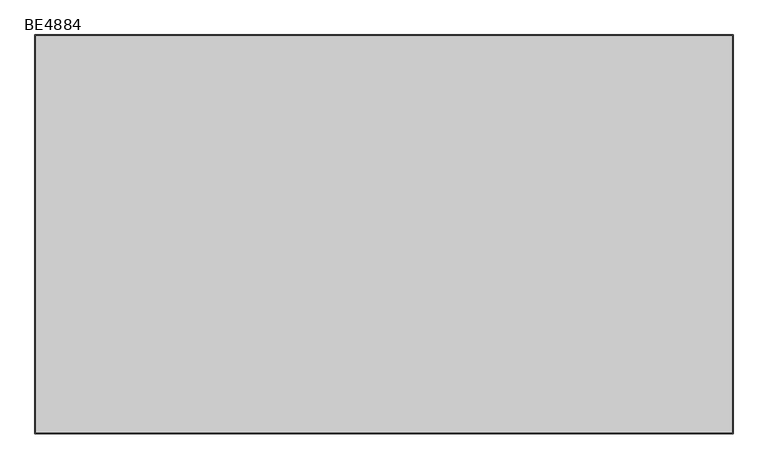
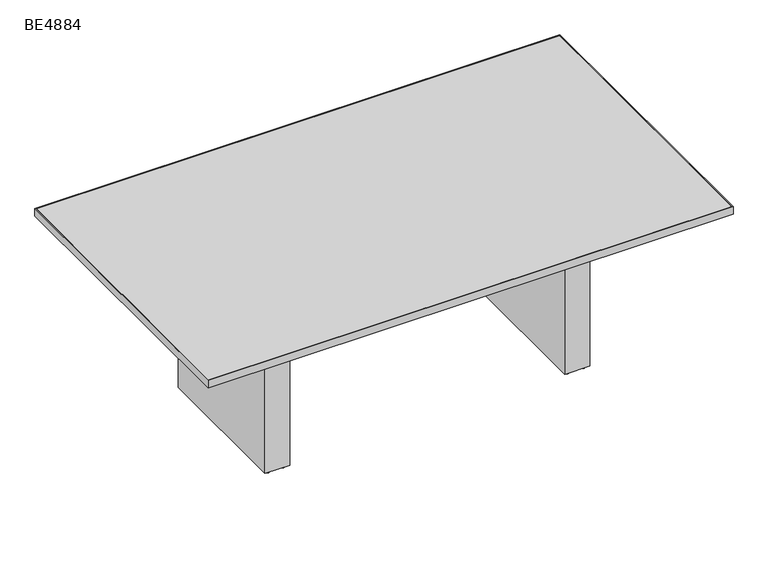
"""IFC4 building model written with IfcOpenShell, lengths in millimetres: furniture geometry, ERG-Beta-Conference_Table-Rectangle : BE4884."""

from ifc_helpers import new_model, si_unit, point, frame, frame_2d, origin, origin_with_axes, place, context, project, spatial, polyline, circle_curve, trimmed, segment, composite_curve, outline, extrude, source, transform, mapped, element, save


def be4884_85807473(model_context):
    return source(origin(), model_context, "Body", "SweptSolid", [
        extrude(outline(composite_curve([segment(trimmed(circle_curve(frame_2d((1120.775, 339.476527)), 9.525), [point((1111.25, 339.476527))], [point((1130.3, 339.476527))], False, "CARTESIAN"), True, "CONTINUOUS"), segment(trimmed(circle_curve(frame_2d((1120.775, 339.476527)), 9.525), [point((1130.3, 339.476527))], [point((1111.25, 339.476527))], False, "CARTESIAN"), True, "CONTINUOUS")], self_intersect=False)), origin_with_axes(), (0.0, 0.0, 1.0), 9.525),
        extrude(outline(composite_curve([segment(trimmed(circle_curve(frame_2d((1184.275, 339.476527)), 9.525), [point((1174.75, 339.476527))], [point((1193.8, 339.476527))], False, "CARTESIAN"), True, "CONTINUOUS"), segment(trimmed(circle_curve(frame_2d((1184.275, 339.476527)), 9.525), [point((1193.8, 339.476527))], [point((1174.75, 339.476527))], False, "CARTESIAN"), True, "CONTINUOUS")], self_intersect=False)), origin_with_axes(), (0.0, 0.0, 1.0), 9.525),
        extrude(outline(composite_curve([segment(trimmed(circle_curve(frame_2d((1120.775, -232.023473)), 9.525), [point((1111.25, -232.023473))], [point((1130.3, -232.023473))], False, "CARTESIAN"), True, "CONTINUOUS"), segment(trimmed(circle_curve(frame_2d((1120.775, -232.023473)), 9.525), [point((1130.3, -232.023473))], [point((1111.25, -232.023473))], False, "CARTESIAN"), True, "CONTINUOUS")], self_intersect=False)), origin_with_axes(), (0.0, 0.0, 1.0), 9.525),
        extrude(outline(composite_curve([segment(trimmed(circle_curve(frame_2d((1184.275, -232.023473)), 9.525), [point((1174.75, -232.023473))], [point((1193.8, -232.023473))], False, "CARTESIAN"), True, "CONTINUOUS"), segment(trimmed(circle_curve(frame_2d((1184.275, -232.023473)), 9.525), [point((1193.8, -232.023473))], [point((1174.75, -232.023473))], False, "CARTESIAN"), True, "CONTINUOUS")], self_intersect=False)), origin_with_axes(), (0.0, 0.0, 1.0), 9.525),
        extrude(outline(polyline([(1203.325, 358.526527), (1203.325, -251.073473), (1101.725, -251.073473), (1101.725, 358.526527), (1203.325, 358.526527)])), frame((0.0, 0.0, 9.525), z_axis=(0.0, 0.0, 1.0), x_axis=(1.0, 0.0, 0.0)), (0.0, 0.0, 1.0), 695.3249758),
        extrude(outline(composite_curve([segment(trimmed(circle_curve(frame_2d((-98.425, 339.476527)), 9.525), [point((-107.95, 339.476527))], [point((-88.9, 339.476527))], False, "CARTESIAN"), True, "CONTINUOUS"), segment(trimmed(circle_curve(frame_2d((-98.425, 339.476527)), 9.525), [point((-88.9, 339.476527))], [point((-107.95, 339.476527))], False, "CARTESIAN"), True, "CONTINUOUS")], self_intersect=False)), origin_with_axes(), (0.0, 0.0, 1.0), 9.525),
        extrude(outline(composite_curve([segment(trimmed(circle_curve(frame_2d((-34.925, 339.476527)), 9.525), [point((-44.45, 339.476527))], [point((-25.4, 339.476527))], False, "CARTESIAN"), True, "CONTINUOUS"), segment(trimmed(circle_curve(frame_2d((-34.925, 339.476527)), 9.525), [point((-25.4, 339.476527))], [point((-44.45, 339.476527))], False, "CARTESIAN"), True, "CONTINUOUS")], self_intersect=False)), origin_with_axes(), (0.0, 0.0, 1.0), 9.525),
        extrude(outline(composite_curve([segment(trimmed(circle_curve(frame_2d((-98.425, -232.023473)), 9.525), [point((-107.95, -232.023473))], [point((-88.9, -232.023473))], False, "CARTESIAN"), True, "CONTINUOUS"), segment(trimmed(circle_curve(frame_2d((-98.425, -232.023473)), 9.525), [point((-88.9, -232.023473))], [point((-107.95, -232.023473))], False, "CARTESIAN"), True, "CONTINUOUS")], self_intersect=False)), origin_with_axes(), (0.0, 0.0, 1.0), 9.525),
        extrude(outline(composite_curve([segment(trimmed(circle_curve(frame_2d((-34.925, -232.023473)), 9.525), [point((-44.45, -232.023473))], [point((-25.4, -232.023473))], False, "CARTESIAN"), True, "CONTINUOUS"), segment(trimmed(circle_curve(frame_2d((-34.925, -232.023473)), 9.525), [point((-25.4, -232.023473))], [point((-44.45, -232.023473))], False, "CARTESIAN"), True, "CONTINUOUS")], self_intersect=False)), origin_with_axes(), (0.0, 0.0, 1.0), 9.525),
        extrude(outline(polyline([(-15.875, 358.526527), (-15.875, -251.073473), (-117.475, -251.073473), (-117.475, 358.526527), (-15.875, 358.526527)])), frame((0.0, 0.0, 9.525), z_axis=(0.0, 0.0, 1.0), x_axis=(1.0, 0.0, 0.0)), (0.0, 0.0, 1.0), 695.3249758),
        extrude(outline(polyline([(1609.725, -555.873473), (-523.875, -555.873473), (-523.875, 663.326527), (1609.725, 663.326527), (1609.725, -555.873473)]), holes=[polyline([(1606.55, 660.151527), (-520.7, 660.151527), (-520.7, -552.698473), (1606.55, -552.698473), (1606.55, 660.151527)])]), frame((0.0, 0.0, 704.85), z_axis=(0.0, 0.0, 1.0), x_axis=(1.0, 0.0, 0.0)), (0.0, 0.0, 1.0), 31.75),
        extrude(outline(polyline([(1606.55, -552.698473), (-520.7, -552.698473), (-520.7, 660.151527), (1606.55, 660.151527), (1606.55, -552.698473)])), frame((0.0, 0.0, 704.85), z_axis=(0.0, 0.0, 1.0), x_axis=(1.0, 0.0, 0.0)), (0.0, 0.0, 1.0), 31.75),
    ])


if __name__ == "__main__":
    model = new_model("IFC4")
    model_context = context("Model", 3, world=origin())
    ifc_project = project(units=[si_unit("LENGTHUNIT", "METRE", prefix="MILLI")], contexts=[model_context])
    site = spatial("IfcSite", under=ifc_project)
    building = spatial("IfcBuilding", under=site)
    placement = place(None, origin())
    be4884_shape = be4884_85807473(model_context)
    element("IfcFurniture", 1, ObjectType="ERG-Beta-Conference_Table-Rectangle : BE4884", at=placement, inside=building, context=model_context, shape_type="MappedRepresentation", body=[
        mapped(be4884_shape, transform((0.0, 0.0, 0.0), x_axis=(1.0, 0.0, 0.0), y_axis=(0.0, 1.0, 0.0), z_axis=(0.0, 0.0, 1.0))),
    ])
    save(model, "model.ifc")
